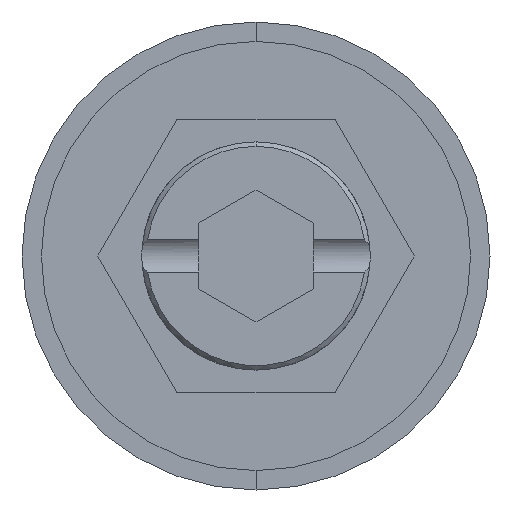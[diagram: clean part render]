
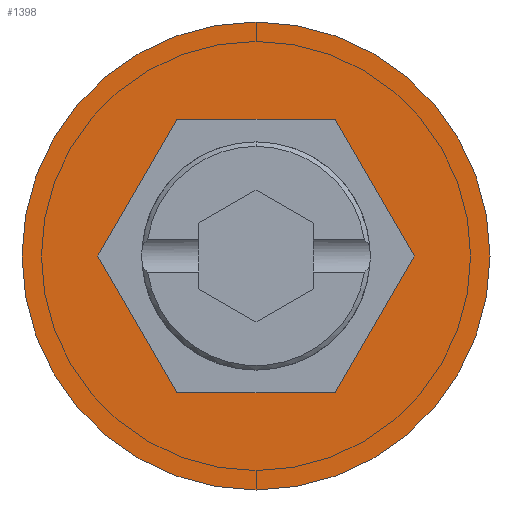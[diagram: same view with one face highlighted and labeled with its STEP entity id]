
A CAD part, front view. The second image highlights one B-rep face of the part: STEP entity #1398.
In plain terms, the highlighted planar face has unit normal (0, -1, 0).
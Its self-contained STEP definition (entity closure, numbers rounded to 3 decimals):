
#35 = ORIENTED_EDGE ( 'NONE', *, *, #1233, .F. ) ;
#41 = VECTOR ( 'NONE', #925, 1000. ) ;
#42 = EDGE_LOOP ( 'NONE', ( #1593, #1518 ) ) ;
#102 = CARTESIAN_POINT ( 'NONE',  ( 3.464, 0., -6. ) ) ;
#148 = CARTESIAN_POINT ( 'NONE',  ( -3.464, 0., 6. ) ) ;
#163 = DIRECTION ( 'NONE',  ( -0.5, 0., -0.866 ) ) ;
#172 = VERTEX_POINT ( 'NONE', #102 ) ;
#184 = CARTESIAN_POINT ( 'NONE',  ( 0., 0., 0. ) ) ;
#230 = CIRCLE ( 'NONE', #530, 10.25 ) ;
#290 = LINE ( 'NONE', #304, #41 ) ;
#304 = CARTESIAN_POINT ( 'NONE',  ( 3.464, 0., -6. ) ) ;
#447 = FACE_BOUND ( 'NONE', #1870, .T. ) ;
#505 = VECTOR ( 'NONE', #163, 1000. ) ;
#518 = ORIENTED_EDGE ( 'NONE', *, *, #1809, .F. ) ;
#522 = VERTEX_POINT ( 'NONE', #888 ) ;
#530 = AXIS2_PLACEMENT_3D ( 'NONE', #1520, #1881, #1869 ) ;
#555 = VERTEX_POINT ( 'NONE', #992 ) ;
#586 = VERTEX_POINT ( 'NONE', #1154 ) ;
#600 = EDGE_CURVE ( 'NONE', #555, #866, #1240, .T. ) ;
#656 = DIRECTION ( 'NONE',  ( 0., 0., -1. ) ) ;
#682 = VECTOR ( 'NONE', #1784, 1000. ) ;
#760 = ORIENTED_EDGE ( 'NONE', *, *, #838, .F. ) ;
#761 = EDGE_CURVE ( 'NONE', #1084, #1673, #795, .T. ) ;
#795 = LINE ( 'NONE', #148, #505 ) ;
#796 = CARTESIAN_POINT ( 'NONE',  ( -6.928, 0., 0. ) ) ;
#806 = DIRECTION ( 'NONE',  ( 0.5, 0., -0.866 ) ) ;
#838 = EDGE_CURVE ( 'NONE', #586, #172, #2244, .T. ) ;
#866 = VERTEX_POINT ( 'NONE', #1415 ) ;
#888 = CARTESIAN_POINT ( 'NONE',  ( 0., 0., 10.25 ) ) ;
#925 = DIRECTION ( 'NONE',  ( 0.5, 0., 0.866 ) ) ;
#946 = CARTESIAN_POINT ( 'NONE',  ( -3.464, 0., 6. ) ) ;
#992 = CARTESIAN_POINT ( 'NONE',  ( 6.928, 0., 0. ) ) ;
#1070 = DIRECTION ( 'NONE',  ( 0., 0., -1. ) ) ;
#1084 = VERTEX_POINT ( 'NONE', #946 ) ;
#1140 = EDGE_CURVE ( 'NONE', #1464, #522, #230, .T. ) ;
#1151 = VECTOR ( 'NONE', #1319, 1000. ) ;
#1154 = CARTESIAN_POINT ( 'NONE',  ( -3.464, 0., -6. ) ) ;
#1172 = LINE ( 'NONE', #1636, #682 ) ;
#1175 = VECTOR ( 'NONE', #806, 1000. ) ;
#1233 = EDGE_CURVE ( 'NONE', #172, #555, #290, .T. ) ;
#1240 = LINE ( 'NONE', #1287, #1151 ) ;
#1287 = CARTESIAN_POINT ( 'NONE',  ( 6.928, 0., 0. ) ) ;
#1311 = ORIENTED_EDGE ( 'NONE', *, *, #1732, .F. ) ;
#1319 = DIRECTION ( 'NONE',  ( -0.5, 0., 0.866 ) ) ;
#1359 = ORIENTED_EDGE ( 'NONE', *, *, #761, .F. ) ;
#1393 = EDGE_CURVE ( 'NONE', #522, #1464, #1846, .T. ) ;
#1398 = ADVANCED_FACE ( 'NONE', ( #447, #1604 ), #1749, .T. ) ;
#1415 = CARTESIAN_POINT ( 'NONE',  ( 3.464, 0., 6. ) ) ;
#1416 = DIRECTION ( 'NONE',  ( 0., -1., 0. ) ) ;
#1458 = LINE ( 'NONE', #796, #1175 ) ;
#1464 = VERTEX_POINT ( 'NONE', #2184 ) ;
#1518 = ORIENTED_EDGE ( 'NONE', *, *, #1393, .T. ) ;
#1520 = CARTESIAN_POINT ( 'NONE',  ( 0., 0., 0. ) ) ;
#1539 = ORIENTED_EDGE ( 'NONE', *, *, #600, .F. ) ;
#1575 = CARTESIAN_POINT ( 'NONE',  ( 0., 0., 0. ) ) ;
#1593 = ORIENTED_EDGE ( 'NONE', *, *, #1140, .T. ) ;
#1604 = FACE_OUTER_BOUND ( 'NONE', #42, .T. ) ;
#1636 = CARTESIAN_POINT ( 'NONE',  ( 3.464, 0., 6. ) ) ;
#1673 = VERTEX_POINT ( 'NONE', #1836 ) ;
#1732 = EDGE_CURVE ( 'NONE', #1673, #586, #1458, .T. ) ;
#1749 = PLANE ( 'NONE',  #1776 ) ;
#1757 = DIRECTION ( 'NONE',  ( 0., -1., 0. ) ) ;
#1776 = AXIS2_PLACEMENT_3D ( 'NONE', #184, #1757, #656 ) ;
#1784 = DIRECTION ( 'NONE',  ( -1., 0., 0. ) ) ;
#1809 = EDGE_CURVE ( 'NONE', #866, #1084, #1172, .T. ) ;
#1836 = CARTESIAN_POINT ( 'NONE',  ( -6.928, 0., 0. ) ) ;
#1846 = CIRCLE ( 'NONE', #2174, 10.25 ) ;
#1869 = DIRECTION ( 'NONE',  ( 0., 0., -1. ) ) ;
#1870 = EDGE_LOOP ( 'NONE', ( #760, #1311, #1359, #518, #1539, #35 ) ) ;
#1881 = DIRECTION ( 'NONE',  ( 0., -1., 0. ) ) ;
#1979 = CARTESIAN_POINT ( 'NONE',  ( -3.464, 0., -6. ) ) ;
#2054 = DIRECTION ( 'NONE',  ( 1., 0., 0. ) ) ;
#2083 = VECTOR ( 'NONE', #2054, 1000. ) ;
#2174 = AXIS2_PLACEMENT_3D ( 'NONE', #1575, #1416, #1070 ) ;
#2184 = CARTESIAN_POINT ( 'NONE',  ( 0., 0., -10.25 ) ) ;
#2244 = LINE ( 'NONE', #1979, #2083 ) ;
